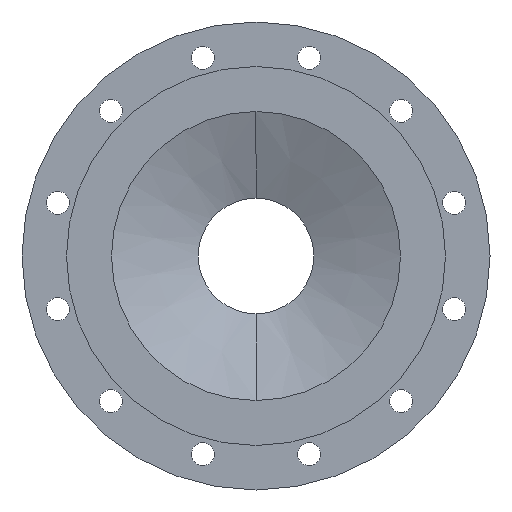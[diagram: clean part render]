
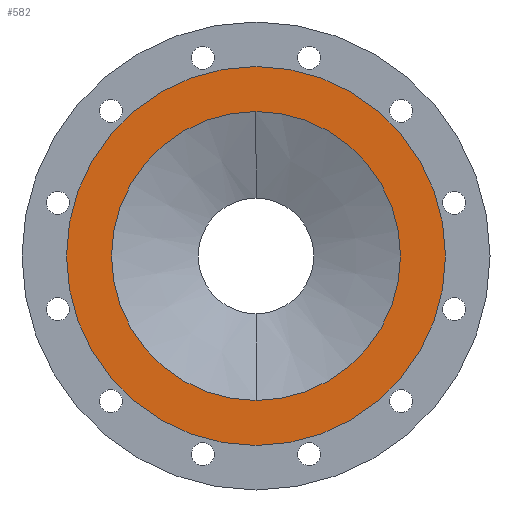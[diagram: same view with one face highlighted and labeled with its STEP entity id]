
A CAD part, left-side view. The second image highlights one B-rep face of the part: STEP entity #582.
In plain terms, the highlighted planar face has unit normal (-1, 0, 0).
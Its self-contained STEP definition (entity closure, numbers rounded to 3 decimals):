
#582=ADVANCED_FACE('',(#1092,#1093),#1094,.F.);
#1092=FACE_BOUND('',#1637,.T.);
#1093=FACE_OUTER_BOUND('',#1638,.T.);
#1094=PLANE('',#1639);
#1637=EDGE_LOOP('',(#2659,#2660));
#1638=EDGE_LOOP('',(#2661,#2662));
#1639=AXIS2_PLACEMENT_3D('',#2663,#2664,#2665);
#2659=ORIENTED_EDGE('',*,*,#3123,.T.);
#2660=ORIENTED_EDGE('',*,*,#2900,.T.);
#2661=ORIENTED_EDGE('',*,*,#3275,.F.);
#2662=ORIENTED_EDGE('',*,*,#3095,.F.);
#2663=CARTESIAN_POINT('',(0.0,0.0,0.));
#2664=DIRECTION('',(1.0,0.0,0.));
#2665=DIRECTION('',(0.,0.0,-1.0));
#2900=EDGE_CURVE('',#3379,#3377,#3380,.T.);
#3095=EDGE_CURVE('',#3684,#3679,#3686,.T.);
#3123=EDGE_CURVE('',#3377,#3379,#3718,.T.);
#3275=EDGE_CURVE('',#3679,#3684,#3918,.T.);
#3377=VERTEX_POINT('',#4050);
#3379=VERTEX_POINT('',#4053);
#3380=CIRCLE('',#4054,125.0);
#3679=VERTEX_POINT('',#4447);
#3684=VERTEX_POINT('',#4453);
#3686=CIRCLE('',#4456,164.0);
#3718=CIRCLE('',#4500,125.0);
#3918=CIRCLE('',#4750,164.0);
#4050=CARTESIAN_POINT('',(0.,0.0,-125.0));
#4053=CARTESIAN_POINT('',(0.,0.,125.0));
#4054=AXIS2_PLACEMENT_3D('',#4820,#4821,#4822);
#4447=CARTESIAN_POINT('',(0.,0.0,-164.0));
#4453=CARTESIAN_POINT('',(0.,0.,164.0));
#4456=AXIS2_PLACEMENT_3D('',#5057,#5058,#5059);
#4500=AXIS2_PLACEMENT_3D('',#5081,#5082,#5083);
#4750=AXIS2_PLACEMENT_3D('',#5269,#5270,#5271);
#4820=CARTESIAN_POINT('',(0.0,0.0,0.0));
#4821=DIRECTION('',(1.0,0.0,0.));
#4822=DIRECTION('',(0.,0.0,-1.0));
#5057=CARTESIAN_POINT('',(0.0,0.0,0.));
#5058=DIRECTION('',(1.0,0.0,0.));
#5059=DIRECTION('',(0.,0.0,-1.0));
#5081=CARTESIAN_POINT('',(0.0,0.0,0.0));
#5082=DIRECTION('',(1.0,0.0,0.));
#5083=DIRECTION('',(0.,0.0,-1.0));
#5269=CARTESIAN_POINT('',(0.0,0.0,0.));
#5270=DIRECTION('',(1.0,0.0,0.));
#5271=DIRECTION('',(0.,0.0,-1.0));
